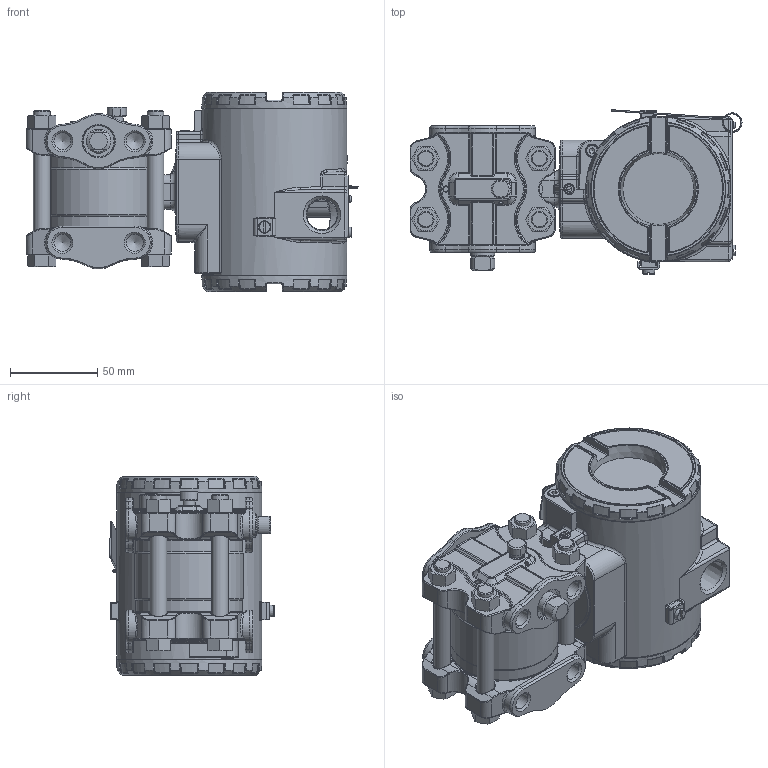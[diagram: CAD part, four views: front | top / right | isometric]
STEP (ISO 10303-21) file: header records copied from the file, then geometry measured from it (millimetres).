
FILE_DESCRIPTION(/* description */ (''),/* implementation_level */ '2;1');
FILE_NAME(/* name */ 'F:\Area\Desenvolvimento_2\Projects\Sensor\projetos\LD30X\montagens 3d - clientes\LD30XA5 1-4NPT purga acima.stp',/* time_stamp */ '2023-01-26T11:19:01-03:00',/* author */ ('inventor02'),/* organization */ (''),/* preprocessor_version */ 'ST-DEVELOPER v17',/* originating_system */ 'Autodesk Inventor 2019',/* authorisation */ '');
FILE_SCHEMA (('CONFIG_CONTROL_DESIGN'));
Length unit declared in the file: millimetre
Products named in the file (30): LD30XA5 1-4NPT purga acima; absoluto standard fx5 purga acima; Flange manometrico standard; flange diferencial std purga; bujao 1-4NPT; Sangria; Paraf. 3-8 x 16 UNC; Porca 3-8 x 16 UNC; involucro fx5 apos a usinagem final; carcaça vazia com tampas e plaqueta; carcaça LD inox sem letras; Subconjunto plaqueta 300; Plaqueta transmissor; Parafuso da Plaqueta; Rebite da Plaqueta; 096-A-0169-03; 101-A-0502-01; Chapa aterramento externo; ISO 1207 - M4 x 8; DIN 915 - M6 x 10; ANSI B18.3.1M - M4x0,7 x 8; Subconjunto tampa com visor aluminio; tampa pintada; VIDRO DO VISOR; oring 41x1 vidro tampa; Trava do vidro da tampa com visor; trava do vidro VH256; Subconjunto tampa sem visor-aluminio; tampa cega 300 pintada p0; 00034775-0
Assembly tree (37 placements, depth 4):
  LD30XA5 1-4NPT purga acima
    absoluto standard fx5 purga acima
      Flange manometrico standard
      flange diferencial std purga
      bujao 1-4NPT
      Sangria
      Paraf. 3-8 x 16 UNC  x4
      Porca 3-8 x 16 UNC  x4
      involucro fx5 apos a usinagem final
    carcaça vazia com tampas e plaqueta
      carcaça LD inox sem letras
      Subconjunto plaqueta 300
        Plaqueta transmissor
        Parafuso da Plaqueta
        Rebite da Plaqueta
        096-A-0169-03
        101-A-0502-01
      Chapa aterramento externo
      ISO 1207 - M4 x 8
      DIN 915 - M6 x 10
      ANSI B18.3.1M - M4x0,7 x 8  x2
      Subconjunto tampa com visor aluminio
        tampa pintada
        VIDRO DO VISOR
        oring 41x1 vidro tampa
        Trava do vidro da tampa com visor
        trava do vidro VH256
        00034775-0
      Subconjunto tampa sem visor-aluminio
        tampa cega 300 pintada p0
        00034775-0
Bounding box: 189.78 x 93.95 x 114 mm (x, y, z)
Volume: 572747.6 mm3; surface area: 228053.9 mm2
Topology: 32 solids, 32 shells, 2624 faces, 6295 edges, 3694 vertices
Faces by surface type: bspline 729, cylinder 609, plane 496, torus 448, cone 230, sphere 112
Full cylindrical faces by diameter (mm): 2 x3, 2.1 x2, 2.459 x5, 2.642 x1, 2.7 x1, 3 x3, 3.242 x4, 3.5 x4, 3.571 x1, 4 x4, 4.3 x1, 4.4 x1, 4.917 x1, 5.5 x3, 6 x2, 6.647 x1, 7 x5, 7.087 x2, 7.6 x2, 7.798 x4, 8 x1, 8.7 x2, 9.525 x4, 9.728 x8, 10.5 x8, 10.719 x2, 13.8 x1, 14 x1, 17.475 x2, 18.5 x2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
Entity records: 93439 total; most frequent: CARTESIAN_POINT 36240, ORIENTED_EDGE 12018, DIRECTION 11551, EDGE_CURVE 6009, AXIS2_PLACEMENT_3D 5087, VERTEX_POINT 3568, CIRCLE 2995, EDGE_LOOP 2635
